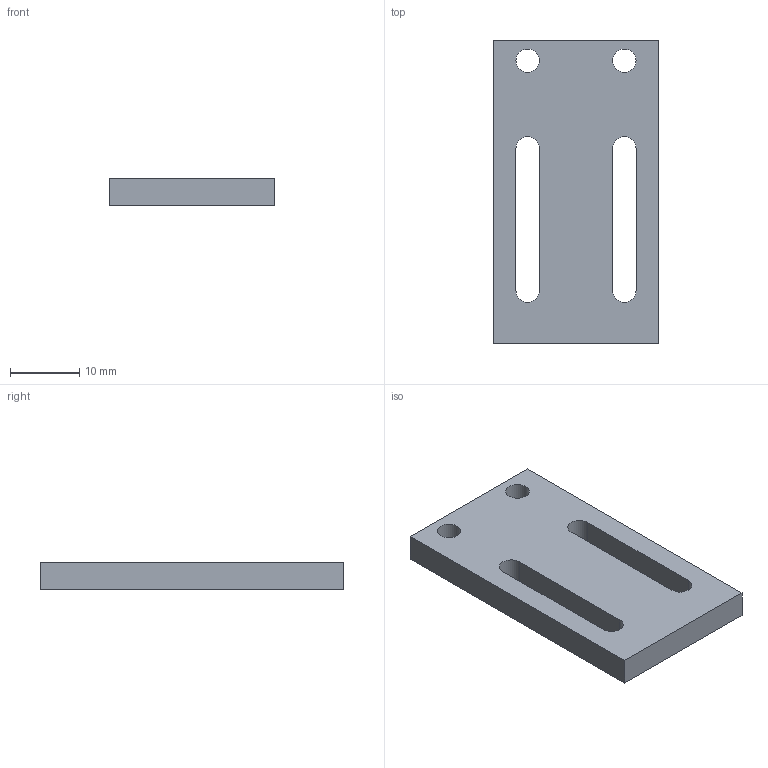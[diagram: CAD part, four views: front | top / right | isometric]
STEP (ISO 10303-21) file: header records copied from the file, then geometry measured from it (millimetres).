
FILE_DESCRIPTION(('Open CASCADE Model'),'2;1');
FILE_NAME('Open CASCADE Shape Model','2026-09-20T05:39:32',('Author'),( 'Open CASCADE'),'Open CASCADE STEP processor 7.9','Open CASCADE 7.9' ,'Unknown');
FILE_SCHEMA(('AUTOMOTIVE_DESIGN { 1 0 10303 214 1 1 1 1 }'));
Length unit declared in the file: millimetre
Products named in the file (1): Open CASCADE STEP translator 7.9 3
Bounding box: 24 x 44 x 4 mm (x, y, z)
Volume: 3518.4 mm3; surface area: 2803.7 mm2
Topology: 1 solids, 1 shells, 16 faces, 42 edges, 28 vertices
Faces by surface type: plane 10, cylinder 6
Full cylindrical faces by diameter (mm): 3.4 x2
Entity records: 1078 total; most frequent: CARTESIAN_POINT 235, DIRECTION 148, LINE 86, VECTOR 86, ORIENTED_EDGE 84, PCURVE 84, DEFINITIONAL_REPRESENTATION 84, EDGE_CURVE 42
